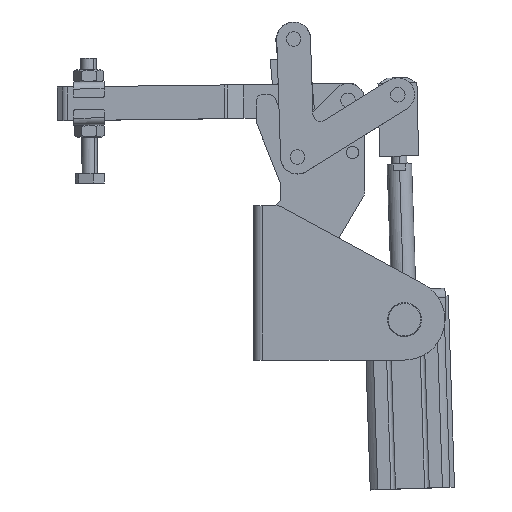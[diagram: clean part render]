
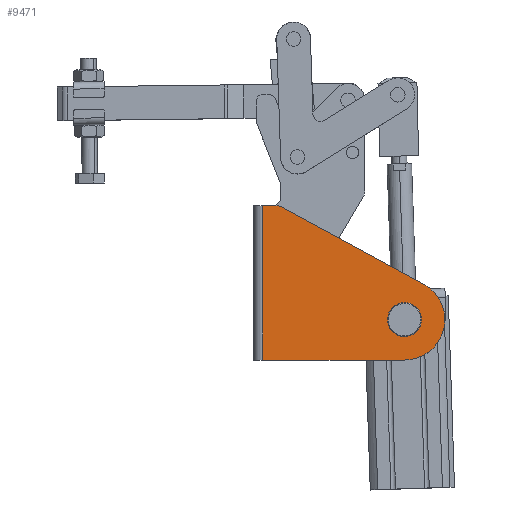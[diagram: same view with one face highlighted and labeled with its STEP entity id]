
A CAD part, top view. The second image highlights one B-rep face of the part: STEP entity #9471.
In plain terms, the highlighted planar face has unit normal (0, 0, 1) as drawn and (1, 0, 0) by its records, which use the part's own axes.
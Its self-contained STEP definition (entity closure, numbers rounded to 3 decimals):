
#24 = DIRECTION ( 'NONE',  ( -1., 0., 0. ) ) ;
#31 = AXIS2_PLACEMENT_3D ( 'NONE', #16388, #16365, #16329 ) ;
#152 = DIRECTION ( 'NONE',  ( 0., 0., 1. ) ) ;
#351 = DIRECTION ( 'NONE',  ( -1., 0., 0. ) ) ;
#388 = VERTEX_POINT ( 'NONE', #2598 ) ;
#1375 = DIRECTION ( 'NONE',  ( -1., 0., 0. ) ) ;
#1388 = VERTEX_POINT ( 'NONE', #4389 ) ;
#1492 = CARTESIAN_POINT ( 'NONE',  ( 44.75, 93.591, -74.253 ) ) ;
#1589 = CARTESIAN_POINT ( 'NONE',  ( 44.75, 11.104, -3. ) ) ;
#1808 = ORIENTED_EDGE ( 'NONE', *, *, #5260, .F. ) ;
#2598 = CARTESIAN_POINT ( 'NONE',  ( 44.75, 93.591, -64.753 ) ) ;
#2831 = EDGE_CURVE ( 'NONE', #12833, #5725, #12446, .T. ) ;
#2854 = AXIS2_PLACEMENT_3D ( 'NONE', #1589, #351, #152 ) ;
#3083 = DIRECTION ( 'NONE',  ( 0., 0., 1. ) ) ;
#3549 = ORIENTED_EDGE ( 'NONE', *, *, #10464, .F. ) ;
#3845 = VERTEX_POINT ( 'NONE', #11959 ) ;
#4147 = VERTEX_POINT ( 'NONE', #16690 ) ;
#4240 = VECTOR ( 'NONE', #4481, 1000. ) ;
#4314 = ORIENTED_EDGE ( 'NONE', *, *, #18253, .T. ) ;
#4382 = VECTOR ( 'NONE', #5289, 1000. ) ;
#4389 = CARTESIAN_POINT ( 'NONE',  ( 44.75, 106.144, -51.087 ) ) ;
#4481 = DIRECTION ( 'NONE',  ( 0., 0.879, -0.476 ) ) ;
#4645 = CARTESIAN_POINT ( 'NONE',  ( 44.75, 1., 0. ) ) ;
#4740 = CARTESIAN_POINT ( 'NONE',  ( 44.75, 1., -74.253 ) ) ;
#4821 = PLANE ( 'NONE',  #7298 ) ;
#4885 = LINE ( 'NONE', #5691, #4382 ) ;
#5071 = ORIENTED_EDGE ( 'NONE', *, *, #2831, .F. ) ;
#5089 = EDGE_CURVE ( 'NONE', #11347, #3845, #13101, .T. ) ;
#5260 = EDGE_CURVE ( 'NONE', #18251, #12833, #4885, .T. ) ;
#5289 = DIRECTION ( 'NONE',  ( 0., 1., 0. ) ) ;
#5459 = EDGE_CURVE ( 'NONE', #388, #4147, #12085, .T. ) ;
#5691 = CARTESIAN_POINT ( 'NONE',  ( 44.75, 11.104, 0. ) ) ;
#5725 = VERTEX_POINT ( 'NONE', #9375 ) ;
#6139 = CARTESIAN_POINT ( 'NONE',  ( 44.75, 12.533, -0.362 ) ) ;
#6505 = DIRECTION ( 'NONE',  ( 0., 0., 1. ) ) ;
#7298 = AXIS2_PLACEMENT_3D ( 'NONE', #12752, #24, #6505 ) ;
#7785 = CARTESIAN_POINT ( 'NONE',  ( 44.75, 93.591, -100.6 ) ) ;
#8610 = AXIS2_PLACEMENT_3D ( 'NONE', #10944, #1375, #12502 ) ;
#9241 = EDGE_CURVE ( 'NONE', #3845, #18251, #14297, .T. ) ;
#9375 = CARTESIAN_POINT ( 'NONE',  ( 44.75, 12.533, -0.362 ) ) ;
#9413 = FACE_OUTER_BOUND ( 'NONE', #12428, .T. ) ;
#9471 = ADVANCED_FACE ( 'NONE', ( #9413, #13557 ), #4821, .F. ) ;
#10116 = CIRCLE ( 'NONE', #8610, 26.347 ) ;
#10464 = EDGE_CURVE ( 'NONE', #1388, #11347, #10116, .T. ) ;
#10944 = CARTESIAN_POINT ( 'NONE',  ( 44.75, 93.591, -74.253 ) ) ;
#11040 = ORIENTED_EDGE ( 'NONE', *, *, #5089, .F. ) ;
#11347 = VERTEX_POINT ( 'NONE', #7785 ) ;
#11959 = CARTESIAN_POINT ( 'NONE',  ( 44.75, 1., -100.6 ) ) ;
#12085 = CIRCLE ( 'NONE', #31, 9.5 ) ;
#12428 = EDGE_LOOP ( 'NONE', ( #14720, #11040, #3549, #16643, #5071, #1808 ) ) ;
#12446 = CIRCLE ( 'NONE', #2854, 3. ) ;
#12502 = DIRECTION ( 'NONE',  ( 0., 0., 1. ) ) ;
#12609 = VECTOR ( 'NONE', #19828, 1000. ) ;
#12639 = DIRECTION ( 'NONE',  ( -1., 0., 0. ) ) ;
#12702 = LINE ( 'NONE', #6139, #4240 ) ;
#12752 = CARTESIAN_POINT ( 'NONE',  ( 44.75, -180.194, -74.253 ) ) ;
#12833 = VERTEX_POINT ( 'NONE', #14380 ) ;
#13101 = LINE ( 'NONE', #20047, #12609 ) ;
#13207 = EDGE_LOOP ( 'NONE', ( #20001, #4314 ) ) ;
#13557 = FACE_BOUND ( 'NONE', #13207, .T. ) ;
#14246 = DIRECTION ( 'NONE',  ( 0., 0., 1. ) ) ;
#14297 = LINE ( 'NONE', #4740, #17429 ) ;
#14380 = CARTESIAN_POINT ( 'NONE',  ( 44.75, 11.104, 0. ) ) ;
#14720 = ORIENTED_EDGE ( 'NONE', *, *, #9241, .F. ) ;
#16329 = DIRECTION ( 'NONE',  ( 0., 0., 1. ) ) ;
#16365 = DIRECTION ( 'NONE',  ( -1., 0., 0. ) ) ;
#16388 = CARTESIAN_POINT ( 'NONE',  ( 44.75, 93.591, -74.253 ) ) ;
#16505 = CIRCLE ( 'NONE', #18017, 9.5 ) ;
#16643 = ORIENTED_EDGE ( 'NONE', *, *, #19478, .F. ) ;
#16690 = CARTESIAN_POINT ( 'NONE',  ( 44.75, 93.591, -83.753 ) ) ;
#17429 = VECTOR ( 'NONE', #14246, 1000. ) ;
#18017 = AXIS2_PLACEMENT_3D ( 'NONE', #1492, #12639, #3083 ) ;
#18251 = VERTEX_POINT ( 'NONE', #4645 ) ;
#18253 = EDGE_CURVE ( 'NONE', #4147, #388, #16505, .T. ) ;
#19478 = EDGE_CURVE ( 'NONE', #5725, #1388, #12702, .T. ) ;
#19828 = DIRECTION ( 'NONE',  ( 0., -1., 0. ) ) ;
#20001 = ORIENTED_EDGE ( 'NONE', *, *, #5459, .T. ) ;
#20047 = CARTESIAN_POINT ( 'NONE',  ( 44.75, 93.591, -100.6 ) ) ;
